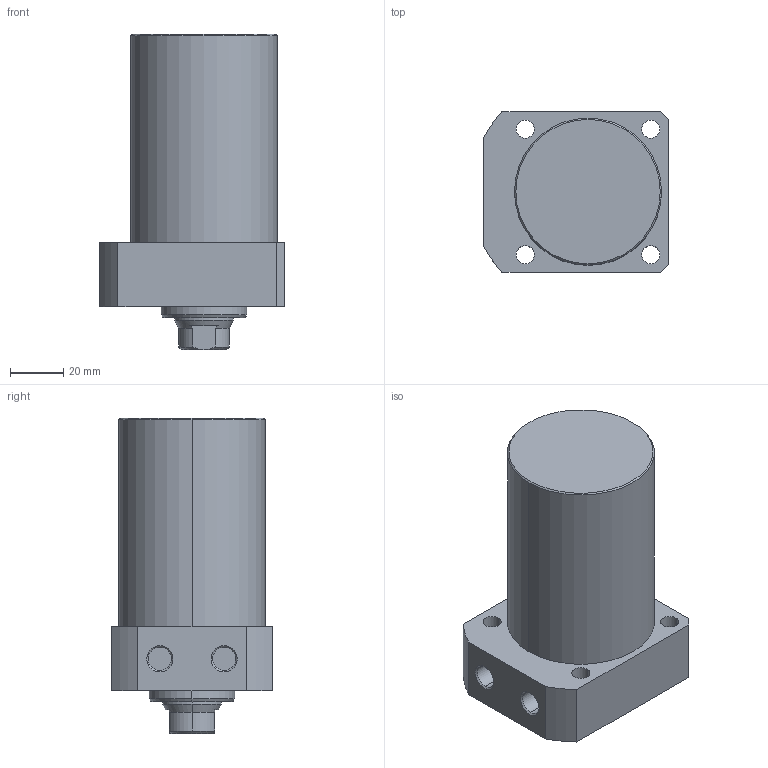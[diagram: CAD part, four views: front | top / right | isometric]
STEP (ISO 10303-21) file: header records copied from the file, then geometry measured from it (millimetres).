
FILE_DESCRIPTION (( 'STEP AP203' ), '1' );
FILE_NAME ('CLLR-055CA-065.STEP', '2019-12-19T07:30:28', ( '' ), ( '' ), 'SwSTEP 2.0', 'SolidWorks 2015', '' );
FILE_SCHEMA (( 'CONFIG_CONTROL_DESIGN' ));
Length unit declared in the file: millimetre
Products named in the file (1): CLLR-055CA-065
Bounding box: 69 x 60 x 118 mm (x, y, z)
Volume: 282951.5 mm3; surface area: 31659.5 mm2
Topology: 1 solids, 1 shells, 65 faces, 151 edges, 94 vertices
Faces by surface type: cylinder 29, plane 19, cone 17
Entity records: 1967 total; most frequent: CARTESIAN_POINT 349, DIRECTION 348, ORIENTED_EDGE 298, EDGE_CURVE 149, AXIS2_PLACEMENT_3D 141, VERTEX_POINT 94, EDGE_LOOP 81, CIRCLE 75
